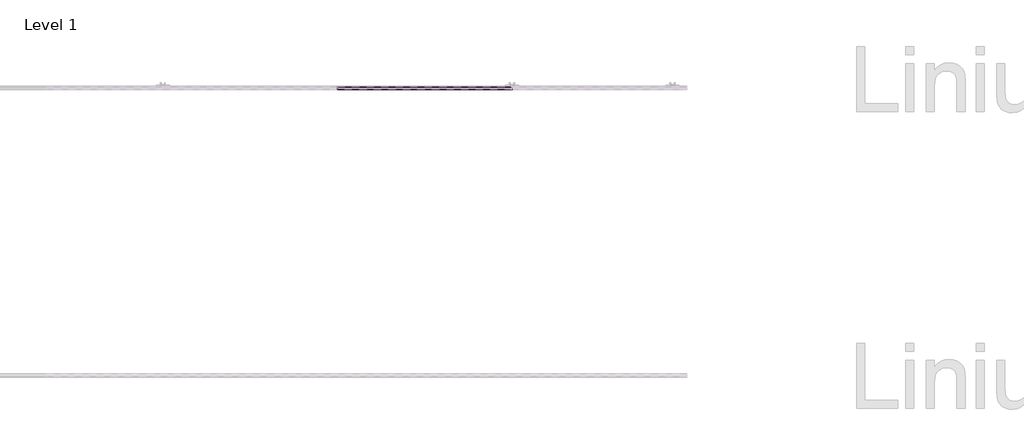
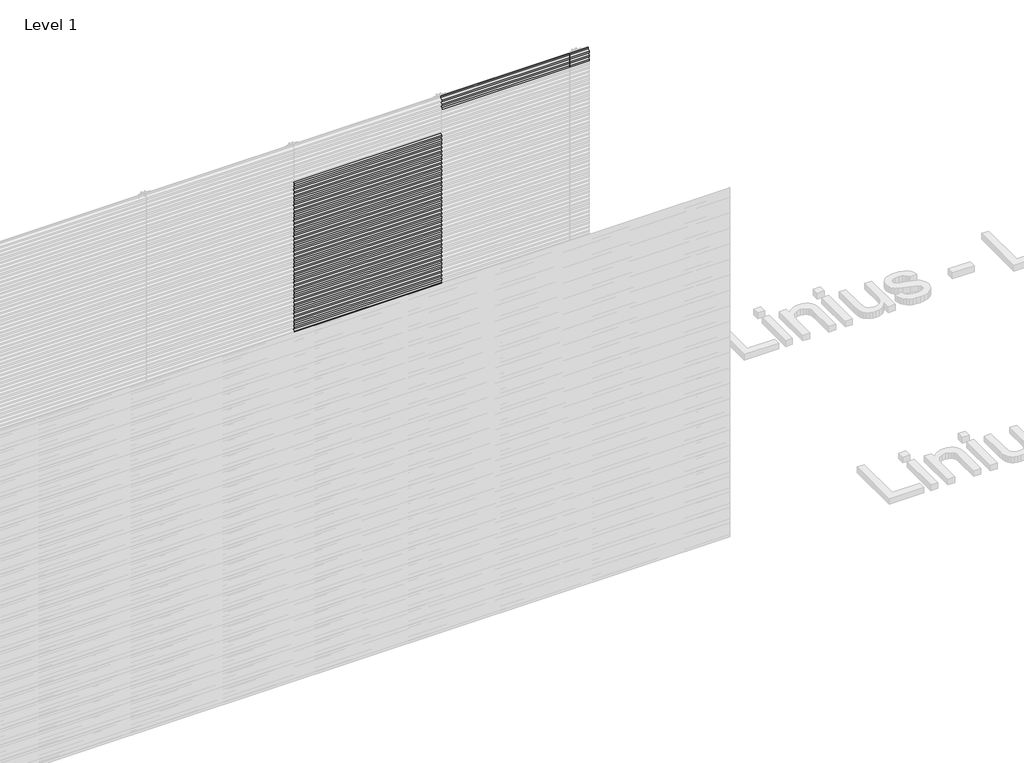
# One storey, part 21 of 507: 84 proxies.
"""IFC4 building model written with IfcOpenShell, lengths in millimetres."""

from ifc_helpers import new_model, si_unit, frame, origin, place, context, project, spatial, polyline, outline, extrude, element, save

model = new_model("IFC4")

# Units and contexts
model_context = context("Model", 3, world=origin())
ifc_project = project(units=[si_unit("LENGTHUNIT", "METRE", prefix="MILLI")], contexts=[model_context])

# Site, building, storey
site = spatial("IfcSite", under=ifc_project)
building = spatial("IfcBuilding", under=site)
storey = spatial("IfcBuildingStorey", under=building, Name="Level 1", Elevation=0.0)

# Proxies
placement = place(None, origin())
element("IfcBuildingElementProxy", 1, Name="Wall Sweeps", at=placement, inside=storey, context=model_context, shape_type="SweptSolid", body=[
    extrude(outline(polyline([(6962.6270068, 2673.3), (6981.7770068, 2684.3562577), (6981.7770068, 2697.3), (6983.0270068, 2697.3), (6983.0270068, 2683.6345698), (6963.8770068, 2672.5782281), (6963.8770068, 2660.5216933), (6962.6270068, 2659.8), (6962.6270068, 2673.3)])), frame((48566.6208096, 0.0, 0.0), z_axis=(1.0, 0.0, 0.0), x_axis=(0.0, 1.0, 0.0)), (0.0, 0.0, 1.0), 1199.9999999),
])
element("IfcBuildingElementProxy", 2, Name="Wall Sweeps", at=placement, inside=storey, context=model_context, shape_type="SweptSolid", body=[
    extrude(outline(polyline([(6962.6270068, 2640.0), (6981.7770068, 2651.0562577), (6981.7770068, 2664.0), (6983.0270068, 2664.0), (6983.0270068, 2650.3345698), (6963.8770068, 2639.2782281), (6963.8770068, 2627.2216933), (6962.6270068, 2626.5), (6962.6270068, 2640.0)])), frame((48566.6208096, 0.0, 0.0), z_axis=(1.0, 0.0, 0.0), x_axis=(0.0, 1.0, 0.0)), (0.0, 0.0, 1.0), 1199.9999999),
])
element("IfcBuildingElementProxy", 3, Name="Wall Sweeps", at=placement, inside=storey, context=model_context, shape_type="SweptSolid", body=[
    extrude(outline(polyline([(6962.6270068, 2606.7), (6981.7770068, 2617.7562577), (6981.7770068, 2630.7), (6983.0270068, 2630.7), (6983.0270068, 2617.0345698), (6963.8770068, 2605.9782281), (6963.8770068, 2593.9216933), (6962.6270068, 2593.2), (6962.6270068, 2606.7)])), frame((48566.6208096, 0.0, 0.0), z_axis=(1.0, 0.0, 0.0), x_axis=(0.0, 1.0, 0.0)), (0.0, 0.0, 1.0), 1199.9999999),
])
element("IfcBuildingElementProxy", 4, Name="Wall Sweeps", at=placement, inside=storey, context=model_context, shape_type="SweptSolid", body=[
    extrude(outline(polyline([(6962.6270068, 2573.4), (6981.7770068, 2584.4562577), (6981.7770068, 2597.4), (6983.0270068, 2597.4), (6983.0270068, 2583.7345698), (6963.8770068, 2572.6782281), (6963.8770068, 2560.6216933), (6962.6270068, 2559.9), (6962.6270068, 2573.4)])), frame((48566.6208096, 0.0, 0.0), z_axis=(1.0, 0.0, 0.0), x_axis=(0.0, 1.0, 0.0)), (0.0, 0.0, 1.0), 1199.9999999),
])
element("IfcBuildingElementProxy", 5, Name="Wall Sweeps", at=placement, inside=storey, context=model_context, shape_type="SweptSolid", body=[
    extrude(outline(polyline([(6962.6270068, 2540.1), (6981.7770068, 2551.1562577), (6981.7770068, 2564.1), (6983.0270068, 2564.1), (6983.0270068, 2550.4345698), (6963.8770068, 2539.3782281), (6963.8770068, 2527.3216933), (6962.6270068, 2526.6), (6962.6270068, 2540.1)])), frame((48566.6208096, 0.0, 0.0), z_axis=(1.0, 0.0, 0.0), x_axis=(0.0, 1.0, 0.0)), (0.0, 0.0, 1.0), 1199.9999999),
])
element("IfcBuildingElementProxy", 6, Name="Wall Sweeps", at=placement, inside=storey, context=model_context, shape_type="SweptSolid", body=[
    extrude(outline(polyline([(6962.6270068, 2506.8), (6981.7770068, 2517.8562577), (6981.7770068, 2530.8), (6983.0270068, 2530.8), (6983.0270068, 2517.1345698), (6963.8770068, 2506.0782281), (6963.8770068, 2494.0216933), (6962.6270068, 2493.3), (6962.6270068, 2506.8)])), frame((48566.6208096, 0.0, 0.0), z_axis=(1.0, 0.0, 0.0), x_axis=(0.0, 1.0, 0.0)), (0.0, 0.0, 1.0), 1199.9999999),
])
element("IfcBuildingElementProxy", 7, Name="Wall Sweeps", at=placement, inside=storey, context=model_context, shape_type="SweptSolid", body=[
    extrude(outline(polyline([(6962.6270068, 2473.5), (6981.7770068, 2484.5562577), (6981.7770068, 2497.5), (6983.0270068, 2497.5), (6983.0270068, 2483.8345698), (6963.8770068, 2472.7782281), (6963.8770068, 2460.7216933), (6962.6270068, 2460.0), (6962.6270068, 2473.5)])), frame((48566.6208096, 0.0, 0.0), z_axis=(1.0, 0.0, 0.0), x_axis=(0.0, 1.0, 0.0)), (0.0, 0.0, 1.0), 1199.9999999),
])
element("IfcBuildingElementProxy", 8, Name="Wall Sweeps", at=placement, inside=storey, context=model_context, shape_type="SweptSolid", body=[
    extrude(outline(polyline([(6962.6270068, 2440.2), (6981.7770068, 2451.2562577), (6981.7770068, 2464.2), (6983.0270068, 2464.2), (6983.0270068, 2450.5345698), (6963.8770068, 2439.4782281), (6963.8770068, 2427.4216933), (6962.6270068, 2426.7), (6962.6270068, 2440.2)])), frame((48566.6208096, 0.0, 0.0), z_axis=(1.0, 0.0, 0.0), x_axis=(0.0, 1.0, 0.0)), (0.0, 0.0, 1.0), 1199.9999999),
])
element("IfcBuildingElementProxy", 9, Name="Wall Sweeps", at=placement, inside=storey, context=model_context, shape_type="SweptSolid", body=[
    extrude(outline(polyline([(6962.6270068, 2406.9), (6981.7770068, 2417.9562577), (6981.7770068, 2430.9), (6983.0270068, 2430.9), (6983.0270068, 2417.2345698), (6963.8770068, 2406.1782281), (6963.8770068, 2394.1216933), (6962.6270068, 2393.4), (6962.6270068, 2406.9)])), frame((48566.6208096, 0.0, 0.0), z_axis=(1.0, 0.0, 0.0), x_axis=(0.0, 1.0, 0.0)), (0.0, 0.0, 1.0), 1199.9999999),
])
element("IfcBuildingElementProxy", 10, Name="Wall Sweeps", at=placement, inside=storey, context=model_context, shape_type="SweptSolid", body=[
    extrude(outline(polyline([(6962.6270068, 2373.6), (6981.7770068, 2384.6562577), (6981.7770068, 2397.6), (6983.0270068, 2397.6), (6983.0270068, 2383.9345698), (6963.8770068, 2372.8782281), (6963.8770068, 2360.8216933), (6962.6270068, 2360.1), (6962.6270068, 2373.6)])), frame((48566.6208096, 0.0, 0.0), z_axis=(1.0, 0.0, 0.0), x_axis=(0.0, 1.0, 0.0)), (0.0, 0.0, 1.0), 1199.9999999),
])
element("IfcBuildingElementProxy", 11, Name="Wall Sweeps", at=placement, inside=storey, context=model_context, shape_type="SweptSolid", body=[
    extrude(outline(polyline([(6962.6270068, 2340.3), (6981.7770068, 2351.3562577), (6981.7770068, 2364.3), (6983.0270068, 2364.3), (6983.0270068, 2350.6345698), (6963.8770068, 2339.5782281), (6963.8770068, 2327.5216933), (6962.6270068, 2326.8), (6962.6270068, 2340.3)])), frame((48566.6208096, 0.0, 0.0), z_axis=(1.0, 0.0, 0.0), x_axis=(0.0, 1.0, 0.0)), (0.0, 0.0, 1.0), 1199.9999999),
])
element("IfcBuildingElementProxy", 12, Name="Wall Sweeps", at=placement, inside=storey, context=model_context, shape_type="SweptSolid", body=[
    extrude(outline(polyline([(6962.6270068, 2307.0), (6981.7770068, 2318.0562577), (6981.7770068, 2331.0), (6983.0270068, 2331.0), (6983.0270068, 2317.3345698), (6963.8770068, 2306.2782281), (6963.8770068, 2294.2216933), (6962.6270068, 2293.5), (6962.6270068, 2307.0)])), frame((48566.6208096, 0.0, 0.0), z_axis=(1.0, 0.0, 0.0), x_axis=(0.0, 1.0, 0.0)), (0.0, 0.0, 1.0), 1199.9999999),
])
element("IfcBuildingElementProxy", 13, Name="Wall Sweeps", at=placement, inside=storey, context=model_context, shape_type="SweptSolid", body=[
    extrude(outline(polyline([(6962.6270068, 2273.7), (6981.7770068, 2284.7562577), (6981.7770068, 2297.7), (6983.0270068, 2297.7), (6983.0270068, 2284.0345698), (6963.8770068, 2272.9782281), (6963.8770068, 2260.9216933), (6962.6270068, 2260.2), (6962.6270068, 2273.7)])), frame((48566.6208096, 0.0, 0.0), z_axis=(1.0, 0.0, 0.0), x_axis=(0.0, 1.0, 0.0)), (0.0, 0.0, 1.0), 1199.9999999),
])
element("IfcBuildingElementProxy", 14, Name="Wall Sweeps", at=placement, inside=storey, context=model_context, shape_type="SweptSolid", body=[
    extrude(outline(polyline([(6962.6270068, 2240.4), (6981.7770068, 2251.4562577), (6981.7770068, 2264.4), (6983.0270068, 2264.4), (6983.0270068, 2250.7345698), (6963.8770068, 2239.6782281), (6963.8770068, 2227.6216933), (6962.6270068, 2226.9), (6962.6270068, 2240.4)])), frame((48566.6208096, 0.0, 0.0), z_axis=(1.0, 0.0, 0.0), x_axis=(0.0, 1.0, 0.0)), (0.0, 0.0, 1.0), 1199.9999999),
])
element("IfcBuildingElementProxy", 15, Name="Wall Sweeps", at=placement, inside=storey, context=model_context, shape_type="SweptSolid", body=[
    extrude(outline(polyline([(6962.6270068, 2207.1), (6981.7770068, 2218.1562577), (6981.7770068, 2231.1), (6983.0270068, 2231.1), (6983.0270068, 2217.4345698), (6963.8770068, 2206.3782281), (6963.8770068, 2194.3216933), (6962.6270068, 2193.6), (6962.6270068, 2207.1)])), frame((48566.6208096, 0.0, 0.0), z_axis=(1.0, 0.0, 0.0), x_axis=(0.0, 1.0, 0.0)), (0.0, 0.0, 1.0), 1199.9999999),
])
element("IfcBuildingElementProxy", 16, Name="Wall Sweeps", at=placement, inside=storey, context=model_context, shape_type="SweptSolid", body=[
    extrude(outline(polyline([(6962.6270068, 2173.8), (6981.7770068, 2184.8562577), (6981.7770068, 2197.8), (6983.0270068, 2197.8), (6983.0270068, 2184.1345698), (6963.8770068, 2173.0782281), (6963.8770068, 2161.0216933), (6962.6270068, 2160.3), (6962.6270068, 2173.8)])), frame((48566.6208096, 0.0, 0.0), z_axis=(1.0, 0.0, 0.0), x_axis=(0.0, 1.0, 0.0)), (0.0, 0.0, 1.0), 1199.9999999),
])
element("IfcBuildingElementProxy", 17, Name="Wall Sweeps", at=placement, inside=storey, context=model_context, shape_type="SweptSolid", body=[
    extrude(outline(polyline([(6962.6270068, 2140.5), (6981.7770068, 2151.5562577), (6981.7770068, 2164.5), (6983.0270068, 2164.5), (6983.0270068, 2150.8345698), (6963.8770068, 2139.7782281), (6963.8770068, 2127.7216933), (6962.6270068, 2127.0), (6962.6270068, 2140.5)])), frame((48566.6208096, 0.0, 0.0), z_axis=(1.0, 0.0, 0.0), x_axis=(0.0, 1.0, 0.0)), (0.0, 0.0, 1.0), 1199.9999999),
])
element("IfcBuildingElementProxy", 18, Name="Wall Sweeps", at=placement, inside=storey, context=model_context, shape_type="SweptSolid", body=[
    extrude(outline(polyline([(6962.6270068, 2107.2), (6981.7770068, 2118.2562577), (6981.7770068, 2131.2), (6983.0270068, 2131.2), (6983.0270068, 2117.5345698), (6963.8770068, 2106.4782281), (6963.8770068, 2094.4216933), (6962.6270068, 2093.7), (6962.6270068, 2107.2)])), frame((48566.6208096, 0.0, 0.0), z_axis=(1.0, 0.0, 0.0), x_axis=(0.0, 1.0, 0.0)), (0.0, 0.0, 1.0), 1199.9999999),
])
element("IfcBuildingElementProxy", 19, Name="Wall Sweeps", at=placement, inside=storey, context=model_context, shape_type="SweptSolid", body=[
    extrude(outline(polyline([(6962.6270068, 2073.9), (6981.7770068, 2084.9562577), (6981.7770068, 2097.9), (6983.0270068, 2097.9), (6983.0270068, 2084.2345698), (6963.8770068, 2073.1782281), (6963.8770068, 2061.1216933), (6962.6270068, 2060.4), (6962.6270068, 2073.9)])), frame((48566.6208096, 0.0, 0.0), z_axis=(1.0, 0.0, 0.0), x_axis=(0.0, 1.0, 0.0)), (0.0, 0.0, 1.0), 1199.9999999),
])
element("IfcBuildingElementProxy", 20, Name="Wall Sweeps", at=placement, inside=storey, context=model_context, shape_type="SweptSolid", body=[
    extrude(outline(polyline([(6962.6270068, 2040.6), (6981.7770068, 2051.6562577), (6981.7770068, 2064.6), (6983.0270068, 2064.6), (6983.0270068, 2050.9345698), (6963.8770068, 2039.8782281), (6963.8770068, 2027.8216933), (6962.6270068, 2027.1), (6962.6270068, 2040.6)])), frame((48566.6208096, 0.0, 0.0), z_axis=(1.0, 0.0, 0.0), x_axis=(0.0, 1.0, 0.0)), (0.0, 0.0, 1.0), 1199.9999999),
])
element("IfcBuildingElementProxy", 21, Name="Wall Sweeps", at=placement, inside=storey, context=model_context, shape_type="SweptSolid", body=[
    extrude(outline(polyline([(6962.6270068, 2007.3), (6981.7770068, 2018.3562577), (6981.7770068, 2031.3), (6983.0270068, 2031.3), (6983.0270068, 2017.6345698), (6963.8770068, 2006.5782281), (6963.8770068, 1994.5216933), (6962.6270068, 1993.8), (6962.6270068, 2007.3)])), frame((48566.6208096, 0.0, 0.0), z_axis=(1.0, 0.0, 0.0), x_axis=(0.0, 1.0, 0.0)), (0.0, 0.0, 1.0), 1199.9999999),
])
element("IfcBuildingElementProxy", 22, Name="Wall Sweeps", at=placement, inside=storey, context=model_context, shape_type="SweptSolid", body=[
    extrude(outline(polyline([(6962.6270068, 1974.0), (6981.7770068, 1985.0562577), (6981.7770068, 1998.0), (6983.0270068, 1998.0), (6983.0270068, 1984.3345698), (6963.8770068, 1973.2782281), (6963.8770068, 1961.2216933), (6962.6270068, 1960.5), (6962.6270068, 1974.0)])), frame((48566.6208096, 0.0, 0.0), z_axis=(1.0, 0.0, 0.0), x_axis=(0.0, 1.0, 0.0)), (0.0, 0.0, 1.0), 1199.9999999),
])
element("IfcBuildingElementProxy", 23, Name="Wall Sweeps", at=placement, inside=storey, context=model_context, shape_type="SweptSolid", body=[
    extrude(outline(polyline([(6962.6270068, 1940.7), (6981.7770068, 1951.7562577), (6981.7770068, 1964.7), (6983.0270068, 1964.7), (6983.0270068, 1951.0345698), (6963.8770068, 1939.9782281), (6963.8770068, 1927.9216933), (6962.6270068, 1927.2), (6962.6270068, 1940.7)])), frame((48566.6208096, 0.0, 0.0), z_axis=(1.0, 0.0, 0.0), x_axis=(0.0, 1.0, 0.0)), (0.0, 0.0, 1.0), 1199.9999999),
])
element("IfcBuildingElementProxy", 24, Name="Wall Sweeps", at=placement, inside=storey, context=model_context, shape_type="SweptSolid", body=[
    extrude(outline(polyline([(6962.6270068, 1907.4), (6981.7770068, 1918.4562577), (6981.7770068, 1931.4), (6983.0270068, 1931.4), (6983.0270068, 1917.7345698), (6963.8770068, 1906.6782281), (6963.8770068, 1894.6216933), (6962.6270068, 1893.9), (6962.6270068, 1907.4)])), frame((48566.6208096, 0.0, 0.0), z_axis=(1.0, 0.0, 0.0), x_axis=(0.0, 1.0, 0.0)), (0.0, 0.0, 1.0), 1199.9999999),
])
element("IfcBuildingElementProxy", 25, Name="Wall Sweeps", at=placement, inside=storey, context=model_context, shape_type="SweptSolid", body=[
    extrude(outline(polyline([(6962.6270068, 1874.1), (6981.7770068, 1885.1562577), (6981.7770068, 1898.1), (6983.0270068, 1898.1), (6983.0270068, 1884.4345698), (6963.8770068, 1873.3782281), (6963.8770068, 1861.3216933), (6962.6270068, 1860.6), (6962.6270068, 1874.1)])), frame((48566.6208096, 0.0, 0.0), z_axis=(1.0, 0.0, 0.0), x_axis=(0.0, 1.0, 0.0)), (0.0, 0.0, 1.0), 1199.9999999),
])
element("IfcBuildingElementProxy", 26, Name="Wall Sweeps", at=placement, inside=storey, context=model_context, shape_type="SweptSolid", body=[
    extrude(outline(polyline([(6962.6270068, 1840.8), (6981.7770068, 1851.8562577), (6981.7770068, 1864.8), (6983.0270068, 1864.8), (6983.0270068, 1851.1345698), (6963.8770068, 1840.0782281), (6963.8770068, 1828.0216933), (6962.6270068, 1827.3), (6962.6270068, 1840.8)])), frame((48566.6208096, 0.0, 0.0), z_axis=(1.0, 0.0, 0.0), x_axis=(0.0, 1.0, 0.0)), (0.0, 0.0, 1.0), 1199.9999999),
])
element("IfcBuildingElementProxy", 27, Name="Wall Sweeps", at=placement, inside=storey, context=model_context, shape_type="SweptSolid", body=[
    extrude(outline(polyline([(6962.6270068, 1807.5), (6981.7770068, 1818.5562577), (6981.7770068, 1831.5), (6983.0270068, 1831.5), (6983.0270068, 1817.8345698), (6963.8770068, 1806.7782281), (6963.8770068, 1794.7216933), (6962.6270068, 1794.0), (6962.6270068, 1807.5)])), frame((48566.6208096, 0.0, 0.0), z_axis=(1.0, 0.0, 0.0), x_axis=(0.0, 1.0, 0.0)), (0.0, 0.0, 1.0), 1199.9999999),
])
element("IfcBuildingElementProxy", 28, Name="Wall Sweeps", at=placement, inside=storey, context=model_context, shape_type="SweptSolid", body=[
    extrude(outline(polyline([(6962.6270068, 1774.2), (6981.7770068, 1785.2562577), (6981.7770068, 1798.2), (6983.0270068, 1798.2), (6983.0270068, 1784.5345698), (6963.8770068, 1773.4782281), (6963.8770068, 1761.4216933), (6962.6270068, 1760.7), (6962.6270068, 1774.2)])), frame((48566.6208096, 0.0, 0.0), z_axis=(1.0, 0.0, 0.0), x_axis=(0.0, 1.0, 0.0)), (0.0, 0.0, 1.0), 1199.9999999),
])
element("IfcBuildingElementProxy", 29, Name="Wall Sweeps", at=placement, inside=storey, context=model_context, shape_type="SweptSolid", body=[
    extrude(outline(polyline([(6962.6270068, 1740.9), (6981.7770068, 1751.9562577), (6981.7770068, 1764.9), (6983.0270068, 1764.9), (6983.0270068, 1751.2345698), (6963.8770068, 1740.1782281), (6963.8770068, 1728.1216933), (6962.6270068, 1727.4), (6962.6270068, 1740.9)])), frame((48566.6208096, 0.0, 0.0), z_axis=(1.0, 0.0, 0.0), x_axis=(0.0, 1.0, 0.0)), (0.0, 0.0, 1.0), 1199.9999999),
])
element("IfcBuildingElementProxy", 30, Name="Wall Sweeps", at=placement, inside=storey, context=model_context, shape_type="SweptSolid", body=[
    extrude(outline(polyline([(6962.6270068, 1707.6), (6981.7770068, 1718.6562577), (6981.7770068, 1731.6), (6983.0270068, 1731.6), (6983.0270068, 1717.9345698), (6963.8770068, 1706.8782281), (6963.8770068, 1694.8216933), (6962.6270068, 1694.1), (6962.6270068, 1707.6)])), frame((48566.6208096, 0.0, 0.0), z_axis=(1.0, 0.0, 0.0), x_axis=(0.0, 1.0, 0.0)), (0.0, 0.0, 1.0), 1199.9999999),
])
element("IfcBuildingElementProxy", 31, Name="Wall Sweeps", at=placement, inside=storey, context=model_context, shape_type="SweptSolid", body=[
    extrude(outline(polyline([(6962.6270068, 1674.3), (6981.7770068, 1685.3562577), (6981.7770068, 1698.3), (6983.0270068, 1698.3), (6983.0270068, 1684.6345698), (6963.8770068, 1673.5782281), (6963.8770068, 1661.5216933), (6962.6270068, 1660.8), (6962.6270068, 1674.3)])), frame((48566.6208096, 0.0, 0.0), z_axis=(1.0, 0.0, 0.0), x_axis=(0.0, 1.0, 0.0)), (0.0, 0.0, 1.0), 1199.9999999),
])
element("IfcBuildingElementProxy", 32, Name="Wall Sweeps", at=placement, inside=storey, context=model_context, shape_type="SweptSolid", body=[
    extrude(outline(polyline([(6962.6270068, 1641.0), (6981.7770068, 1652.0562577), (6981.7770068, 1665.0), (6983.0270068, 1665.0), (6983.0270068, 1651.3345698), (6963.8770068, 1640.2782281), (6963.8770068, 1628.2216933), (6962.6270068, 1627.5), (6962.6270068, 1641.0)])), frame((48566.6208096, 0.0, 0.0), z_axis=(1.0, 0.0, 0.0), x_axis=(0.0, 1.0, 0.0)), (0.0, 0.0, 1.0), 1199.9999999),
])
element("IfcBuildingElementProxy", 33, Name="Wall Sweeps", at=placement, inside=storey, context=model_context, shape_type="SweptSolid", body=[
    extrude(outline(polyline([(6962.6270068, 1607.7), (6981.7770068, 1618.7562577), (6981.7770068, 1631.7), (6983.0270068, 1631.7), (6983.0270068, 1618.0345698), (6963.8770068, 1606.9782281), (6963.8770068, 1594.9216933), (6962.6270068, 1594.2), (6962.6270068, 1607.7)])), frame((48566.6208096, 0.0, 0.0), z_axis=(1.0, 0.0, 0.0), x_axis=(0.0, 1.0, 0.0)), (0.0, 0.0, 1.0), 1199.9999999),
])
element("IfcBuildingElementProxy", 34, Name="Wall Sweeps", at=placement, inside=storey, context=model_context, shape_type="SweptSolid", body=[
    extrude(outline(polyline([(6962.6270068, 1574.4), (6981.7770068, 1585.4562577), (6981.7770068, 1598.4), (6983.0270068, 1598.4), (6983.0270068, 1584.7345698), (6963.8770068, 1573.6782281), (6963.8770068, 1561.6216933), (6962.6270068, 1560.9), (6962.6270068, 1574.4)])), frame((48566.6208096, 0.0, 0.0), z_axis=(1.0, 0.0, 0.0), x_axis=(0.0, 1.0, 0.0)), (0.0, 0.0, 1.0), 1199.9999999),
])
element("IfcBuildingElementProxy", 35, Name="Wall Sweeps", at=placement, inside=storey, context=model_context, shape_type="SweptSolid", body=[
    extrude(outline(polyline([(6962.6270068, 1541.1), (6981.7770068, 1552.1562577), (6981.7770068, 1565.1), (6983.0270068, 1565.1), (6983.0270068, 1551.4345698), (6963.8770068, 1540.3782281), (6963.8770068, 1528.3216933), (6962.6270068, 1527.6), (6962.6270068, 1541.1)])), frame((48566.6208096, 0.0, 0.0), z_axis=(1.0, 0.0, 0.0), x_axis=(0.0, 1.0, 0.0)), (0.0, 0.0, 1.0), 1199.9999999),
])
element("IfcBuildingElementProxy", 36, Name="Wall Sweeps", at=placement, inside=storey, context=model_context, shape_type="SweptSolid", body=[
    extrude(outline(polyline([(6962.6270068, 1507.8), (6981.7770068, 1518.8562577), (6981.7770068, 1531.8), (6983.0270068, 1531.8), (6983.0270068, 1518.1345698), (6963.8770068, 1507.0782281), (6963.8770068, 1495.0216933), (6962.6270068, 1494.3), (6962.6270068, 1507.8)])), frame((48566.6208096, 0.0, 0.0), z_axis=(1.0, 0.0, 0.0), x_axis=(0.0, 1.0, 0.0)), (0.0, 0.0, 1.0), 1199.9999999),
])
element("IfcBuildingElementProxy", 37, Name="Wall Sweeps", at=placement, inside=storey, context=model_context, shape_type="SweptSolid", body=[
    extrude(outline(polyline([(6962.6270068, 1474.5), (6981.7770068, 1485.5562577), (6981.7770068, 1498.5), (6983.0270068, 1498.5), (6983.0270068, 1484.8345698), (6963.8770068, 1473.7782281), (6963.8770068, 1461.7216933), (6962.6270068, 1461.0), (6962.6270068, 1474.5)])), frame((48566.6208096, 0.0, 0.0), z_axis=(1.0, 0.0, 0.0), x_axis=(0.0, 1.0, 0.0)), (0.0, 0.0, 1.0), 1199.9999999),
])
element("IfcBuildingElementProxy", 38, Name="Wall Sweeps", at=placement, inside=storey, context=model_context, shape_type="SweptSolid", body=[
    extrude(outline(polyline([(6962.6270068, 1441.2), (6981.7770068, 1452.2562577), (6981.7770068, 1465.2), (6983.0270068, 1465.2), (6983.0270068, 1451.5345698), (6963.8770068, 1440.4782281), (6963.8770068, 1428.4216933), (6962.6270068, 1427.7), (6962.6270068, 1441.2)])), frame((48566.6208096, 0.0, 0.0), z_axis=(1.0, 0.0, 0.0), x_axis=(0.0, 1.0, 0.0)), (0.0, 0.0, 1.0), 1199.9999999),
])
element("IfcBuildingElementProxy", 39, Name="Wall Sweeps", at=placement, inside=storey, context=model_context, shape_type="SweptSolid", body=[
    extrude(outline(polyline([(6962.6270068, 1407.9), (6981.7770068, 1418.9562577), (6981.7770068, 1431.9), (6983.0270068, 1431.9), (6983.0270068, 1418.2345698), (6963.8770068, 1407.1782281), (6963.8770068, 1395.1216933), (6962.6270068, 1394.4), (6962.6270068, 1407.9)])), frame((48566.6208096, 0.0, 0.0), z_axis=(1.0, 0.0, 0.0), x_axis=(0.0, 1.0, 0.0)), (0.0, 0.0, 1.0), 1199.9999999),
])
element("IfcBuildingElementProxy", 40, Name="Wall Sweeps", at=placement, inside=storey, context=model_context, shape_type="SweptSolid", body=[
    extrude(outline(polyline([(6962.6270068, 1374.6), (6981.7770068, 1385.6562577), (6981.7770068, 1398.6), (6983.0270068, 1398.6), (6983.0270068, 1384.9345698), (6963.8770068, 1373.8782281), (6963.8770068, 1361.8216933), (6962.6270068, 1361.1), (6962.6270068, 1374.6)])), frame((48566.6208096, 0.0, 0.0), z_axis=(1.0, 0.0, 0.0), x_axis=(0.0, 1.0, 0.0)), (0.0, 0.0, 1.0), 1199.9999999),
])
element("IfcBuildingElementProxy", 41, Name="Wall Sweeps", at=placement, inside=storey, context=model_context, shape_type="SweptSolid", body=[
    extrude(outline(polyline([(6962.6270068, 1341.3), (6981.7770068, 1352.3562577), (6981.7770068, 1365.3), (6983.0270068, 1365.3), (6983.0270068, 1351.6345698), (6963.8770068, 1340.5782281), (6963.8770068, 1328.5216933), (6962.6270068, 1327.8), (6962.6270068, 1341.3)])), frame((48566.6208096, 0.0, 0.0), z_axis=(1.0, 0.0, 0.0), x_axis=(0.0, 1.0, 0.0)), (0.0, 0.0, 1.0), 1199.9999999),
])
element("IfcBuildingElementProxy", 42, Name="Wall Sweeps", at=placement, inside=storey, context=model_context, shape_type="SweptSolid", body=[
    extrude(outline(polyline([(6962.6270068, 1308.0), (6981.7770068, 1319.0562577), (6981.7770068, 1332.0), (6983.0270068, 1332.0), (6983.0270068, 1318.3345698), (6963.8770068, 1307.2782281), (6963.8770068, 1295.2216933), (6962.6270068, 1294.5), (6962.6270068, 1308.0)])), frame((48566.6208096, 0.0, 0.0), z_axis=(1.0, 0.0, 0.0), x_axis=(0.0, 1.0, 0.0)), (0.0, 0.0, 1.0), 1199.9999999),
])
element("IfcBuildingElementProxy", 43, Name="Wall Sweeps", at=placement, inside=storey, context=model_context, shape_type="SweptSolid", body=[
    extrude(outline(polyline([(6962.6270068, 1274.7), (6981.7770068, 1285.7562577), (6981.7770068, 1298.7), (6983.0270068, 1298.7), (6983.0270068, 1285.0345698), (6963.8770068, 1273.9782281), (6963.8770068, 1261.9216933), (6962.6270068, 1261.2), (6962.6270068, 1274.7)])), frame((48566.6208096, 0.0, 0.0), z_axis=(1.0, 0.0, 0.0), x_axis=(0.0, 1.0, 0.0)), (0.0, 0.0, 1.0), 1199.9999999),
])
element("IfcBuildingElementProxy", 44, Name="Wall Sweeps", at=placement, inside=storey, context=model_context, shape_type="SweptSolid", body=[
    extrude(outline(polyline([(6962.6270068, 1241.4), (6981.7770068, 1252.4562577), (6981.7770068, 1265.4), (6983.0270068, 1265.4), (6983.0270068, 1251.7345698), (6963.8770068, 1240.6782281), (6963.8770068, 1228.6216933), (6962.6270068, 1227.9), (6962.6270068, 1241.4)])), frame((48566.6208096, 0.0, 0.0), z_axis=(1.0, 0.0, 0.0), x_axis=(0.0, 1.0, 0.0)), (0.0, 0.0, 1.0), 1199.9999999),
])
element("IfcBuildingElementProxy", 45, Name="Wall Sweeps", at=placement, inside=storey, context=model_context, shape_type="SweptSolid", body=[
    extrude(outline(polyline([(6962.6270068, 1208.1), (6981.7770068, 1219.1562577), (6981.7770068, 1232.1), (6983.0270068, 1232.1), (6983.0270068, 1218.4345698), (6963.8770068, 1207.3782281), (6963.8770068, 1195.3216933), (6962.6270068, 1194.6), (6962.6270068, 1208.1)])), frame((48566.6208096, 0.0, 0.0), z_axis=(1.0, 0.0, 0.0), x_axis=(0.0, 1.0, 0.0)), (0.0, 0.0, 1.0), 1199.9999999),
])
element("IfcBuildingElementProxy", 46, Name="Wall Sweeps", at=placement, inside=storey, context=model_context, shape_type="SweptSolid", body=[
    extrude(outline(polyline([(6962.6270068, 1174.8), (6981.7770068, 1185.8562577), (6981.7770068, 1198.8), (6983.0270068, 1198.8), (6983.0270068, 1185.1345698), (6963.8770068, 1174.0782281), (6963.8770068, 1162.0216933), (6962.6270068, 1161.3), (6962.6270068, 1174.8)])), frame((48566.6208096, 0.0, 0.0), z_axis=(1.0, 0.0, 0.0), x_axis=(0.0, 1.0, 0.0)), (0.0, 0.0, 1.0), 1199.9999999),
])
element("IfcBuildingElementProxy", 47, Name="Wall Sweeps", at=placement, inside=storey, context=model_context, shape_type="SweptSolid", body=[
    extrude(outline(polyline([(6962.6270068, 1141.5), (6981.7770068, 1152.5562577), (6981.7770068, 1165.5), (6983.0270068, 1165.5), (6983.0270068, 1151.8345698), (6963.8770068, 1140.7782281), (6963.8770068, 1128.7216933), (6962.6270068, 1128.0), (6962.6270068, 1141.5)])), frame((48566.6208096, 0.0, 0.0), z_axis=(1.0, 0.0, 0.0), x_axis=(0.0, 1.0, 0.0)), (0.0, 0.0, 1.0), 1199.9999999),
])
element("IfcBuildingElementProxy", 48, Name="Wall Sweeps", at=placement, inside=storey, context=model_context, shape_type="SweptSolid", body=[
    extrude(outline(polyline([(6962.6270068, 1108.2), (6981.7770068, 1119.2562577), (6981.7770068, 1132.2), (6983.0270068, 1132.2), (6983.0270068, 1118.5345698), (6963.8770068, 1107.4782281), (6963.8770068, 1095.4216933), (6962.6270068, 1094.7), (6962.6270068, 1108.2)])), frame((48566.6208096, 0.0, 0.0), z_axis=(1.0, 0.0, 0.0), x_axis=(0.0, 1.0, 0.0)), (0.0, 0.0, 1.0), 1199.9999999),
])
element("IfcBuildingElementProxy", 49, Name="Wall Sweeps", at=placement, inside=storey, context=model_context, shape_type="SweptSolid", body=[
    extrude(outline(polyline([(6962.6270068, 1074.9), (6981.7770068, 1085.9562577), (6981.7770068, 1098.9), (6983.0270068, 1098.9), (6983.0270068, 1085.2345698), (6963.8770068, 1074.1782281), (6963.8770068, 1062.1216933), (6962.6270068, 1061.4), (6962.6270068, 1074.9)])), frame((48566.6208096, 0.0, 0.0), z_axis=(1.0, 0.0, 0.0), x_axis=(0.0, 1.0, 0.0)), (0.0, 0.0, 1.0), 1199.9999999),
])
element("IfcBuildingElementProxy", 50, Name="Wall Sweeps", at=placement, inside=storey, context=model_context, shape_type="SweptSolid", body=[
    extrude(outline(polyline([(6962.6270068, 1041.6), (6981.7770068, 1052.6562577), (6981.7770068, 1065.6), (6983.0270068, 1065.6), (6983.0270068, 1051.9345698), (6963.8770068, 1040.8782281), (6963.8770068, 1028.8216933), (6962.6270068, 1028.1), (6962.6270068, 1041.6)])), frame((48566.6208096, 0.0, 0.0), z_axis=(1.0, 0.0, 0.0), x_axis=(0.0, 1.0, 0.0)), (0.0, 0.0, 1.0), 1199.9999999),
])
element("IfcBuildingElementProxy", 51, Name="Wall Sweeps", at=placement, inside=storey, context=model_context, shape_type="SweptSolid", body=[
    extrude(outline(polyline([(6962.6270068, 1008.3), (6981.7770068, 1019.3562577), (6981.7770068, 1032.3), (6983.0270068, 1032.3), (6983.0270068, 1018.6345698), (6963.8770068, 1007.5782281), (6963.8770068, 995.5216933), (6962.6270068, 994.8), (6962.6270068, 1008.3)])), frame((48566.6208096, 0.0, 0.0), z_axis=(1.0, 0.0, 0.0), x_axis=(0.0, 1.0, 0.0)), (0.0, 0.0, 1.0), 1199.9999999),
])
element("IfcBuildingElementProxy", 52, Name="Wall Sweeps", at=placement, inside=storey, context=model_context, shape_type="SweptSolid", body=[
    extrude(outline(polyline([(6962.6270068, 975.0), (6981.7770068, 986.0562577), (6981.7770068, 999.0), (6983.0270068, 999.0), (6983.0270068, 985.3345698), (6963.8770068, 974.2782281), (6963.8770068, 962.2216933), (6962.6270068, 961.5), (6962.6270068, 975.0)])), frame((48566.6208096, 0.0, 0.0), z_axis=(1.0, 0.0, 0.0), x_axis=(0.0, 1.0, 0.0)), (0.0, 0.0, 1.0), 1199.9999999),
])
element("IfcBuildingElementProxy", 53, Name="Wall Sweeps", at=placement, inside=storey, context=model_context, shape_type="SweptSolid", body=[
    extrude(outline(polyline([(6962.6270068, 941.7), (6981.7770068, 952.7562577), (6981.7770068, 965.7), (6983.0270068, 965.7), (6983.0270068, 952.0345698), (6963.8770068, 940.9782281), (6963.8770068, 928.9216933), (6962.6270068, 928.2), (6962.6270068, 941.7)])), frame((48566.6208096, 0.0, 0.0), z_axis=(1.0, 0.0, 0.0), x_axis=(0.0, 1.0, 0.0)), (0.0, 0.0, 1.0), 1199.9999999),
])
element("IfcBuildingElementProxy", 54, Name="Wall Sweeps", at=placement, inside=storey, context=model_context, shape_type="SweptSolid", body=[
    extrude(outline(polyline([(6962.6270068, 908.4), (6981.7770068, 919.4562577), (6981.7770068, 932.4), (6983.0270068, 932.4), (6983.0270068, 918.7345698), (6963.8770068, 907.6782281), (6963.8770068, 895.6216933), (6962.6270068, 894.9), (6962.6270068, 908.4)])), frame((48566.6208096, 0.0, 0.0), z_axis=(1.0, 0.0, 0.0), x_axis=(0.0, 1.0, 0.0)), (0.0, 0.0, 1.0), 1199.9999999),
])
element("IfcBuildingElementProxy", 55, Name="Wall Sweeps", at=placement, inside=storey, context=model_context, shape_type="SweptSolid", body=[
    extrude(outline(polyline([(6962.6270068, 875.1), (6981.7770068, 886.1562577), (6981.7770068, 899.1), (6983.0270068, 899.1), (6983.0270068, 885.4345698), (6963.8770068, 874.3782281), (6963.8770068, 862.3216933), (6962.6270068, 861.6), (6962.6270068, 875.1)])), frame((48566.6208096, 0.0, 0.0), z_axis=(1.0, 0.0, 0.0), x_axis=(0.0, 1.0, 0.0)), (0.0, 0.0, 1.0), 1199.9999999),
])
element("IfcBuildingElementProxy", 56, Name="Wall Sweeps", at=placement, inside=storey, context=model_context, shape_type="SweptSolid", body=[
    extrude(outline(polyline([(6962.6270068, 841.8), (6981.7770068, 852.8562577), (6981.7770068, 865.8), (6983.0270068, 865.8), (6983.0270068, 852.1345698), (6963.8770068, 841.0782281), (6963.8770068, 829.0216933), (6962.6270068, 828.3), (6962.6270068, 841.8)])), frame((48566.6208096, 0.0, 0.0), z_axis=(1.0, 0.0, 0.0), x_axis=(0.0, 1.0, 0.0)), (0.0, 0.0, 1.0), 1199.9999999),
])
element("IfcBuildingElementProxy", 57, Name="Wall Sweeps", at=placement, inside=storey, context=model_context, shape_type="SweptSolid", body=[
    extrude(outline(polyline([(6962.6270068, 808.5), (6981.7770068, 819.5562577), (6981.7770068, 832.5), (6983.0270068, 832.5), (6983.0270068, 818.8345698), (6963.8770068, 807.7782281), (6963.8770068, 795.7216933), (6962.6270068, 795.0), (6962.6270068, 808.5)])), frame((48566.6208096, 0.0, 0.0), z_axis=(1.0, 0.0, 0.0), x_axis=(0.0, 1.0, 0.0)), (0.0, 0.0, 1.0), 1199.9999999),
])
element("IfcBuildingElementProxy", 58, Name="Wall Sweeps", at=placement, inside=storey, context=model_context, shape_type="SweptSolid", body=[
    extrude(outline(polyline([(6962.6270068, 775.2), (6981.7770068, 786.2562577), (6981.7770068, 799.2), (6983.0270068, 799.2), (6983.0270068, 785.5345698), (6963.8770068, 774.4782281), (6963.8770068, 762.4216933), (6962.6270068, 761.7), (6962.6270068, 775.2)])), frame((48566.6208096, 0.0, 0.0), z_axis=(1.0, 0.0, 0.0), x_axis=(0.0, 1.0, 0.0)), (0.0, 0.0, 1.0), 1199.9999999),
])
element("IfcBuildingElementProxy", 59, Name="Wall Sweeps", at=placement, inside=storey, context=model_context, shape_type="SweptSolid", body=[
    extrude(outline(polyline([(6962.6270068, 741.9), (6981.7770068, 752.9562577), (6981.7770068, 765.9), (6983.0270068, 765.9), (6983.0270068, 752.2345698), (6963.8770068, 741.1782281), (6963.8770068, 729.1216933), (6962.6270068, 728.4), (6962.6270068, 741.9)])), frame((48566.6208096, 0.0, 0.0), z_axis=(1.0, 0.0, 0.0), x_axis=(0.0, 1.0, 0.0)), (0.0, 0.0, 1.0), 1199.9999999),
])
element("IfcBuildingElementProxy", 60, Name="Wall Sweeps", at=placement, inside=storey, context=model_context, shape_type="SweptSolid", body=[
    extrude(outline(polyline([(6962.6270068, 708.6), (6981.7770068, 719.6562577), (6981.7770068, 732.6), (6983.0270068, 732.6), (6983.0270068, 718.9345698), (6963.8770068, 707.8782281), (6963.8770068, 695.8216933), (6962.6270068, 695.1), (6962.6270068, 708.6)])), frame((48566.6208096, 0.0, 0.0), z_axis=(1.0, 0.0, 0.0), x_axis=(0.0, 1.0, 0.0)), (0.0, 0.0, 1.0), 1199.9999999),
])
element("IfcBuildingElementProxy", 61, Name="Wall Sweeps", at=placement, inside=storey, context=model_context, shape_type="SweptSolid", body=[
    extrude(outline(polyline([(6962.6270068, 675.3), (6981.7770068, 686.3562577), (6981.7770068, 699.3), (6983.0270068, 699.3), (6983.0270068, 685.6345698), (6963.8770068, 674.5782281), (6963.8770068, 662.5216933), (6962.6270068, 661.8), (6962.6270068, 675.3)])), frame((48566.6208096, 0.0, 0.0), z_axis=(1.0, 0.0, 0.0), x_axis=(0.0, 1.0, 0.0)), (0.0, 0.0, 1.0), 1199.9999999),
])
element("IfcBuildingElementProxy", 62, Name="Wall Sweeps", at=placement, inside=storey, context=model_context, shape_type="SweptSolid", body=[
    extrude(outline(polyline([(6962.6270068, 642.0), (6981.7770068, 653.0562577), (6981.7770068, 666.0), (6983.0270068, 666.0), (6983.0270068, 652.3345698), (6963.8770068, 641.2782281), (6963.8770068, 629.2216933), (6962.6270068, 628.5), (6962.6270068, 642.0)])), frame((48566.6208096, 0.0, 0.0), z_axis=(1.0, 0.0, 0.0), x_axis=(0.0, 1.0, 0.0)), (0.0, 0.0, 1.0), 1199.9999999),
])
element("IfcBuildingElementProxy", 63, Name="Wall Sweeps", at=placement, inside=storey, context=model_context, shape_type="SweptSolid", body=[
    extrude(outline(polyline([(6962.6270068, 608.7), (6981.7770068, 619.7562577), (6981.7770068, 632.7), (6983.0270068, 632.7), (6983.0270068, 619.0345698), (6963.8770068, 607.9782281), (6963.8770068, 595.9216933), (6962.6270068, 595.2), (6962.6270068, 608.7)])), frame((48566.6208096, 0.0, 0.0), z_axis=(1.0, 0.0, 0.0), x_axis=(0.0, 1.0, 0.0)), (0.0, 0.0, 1.0), 1199.9999999),
])
element("IfcBuildingElementProxy", 64, Name="Wall Sweeps", at=placement, inside=storey, context=model_context, shape_type="SweptSolid", body=[
    extrude(outline(polyline([(6962.6270068, 575.4), (6981.7770068, 586.4562577), (6981.7770068, 599.4), (6983.0270068, 599.4), (6983.0270068, 585.7345698), (6963.8770068, 574.6782281), (6963.8770068, 562.6216933), (6962.6270068, 561.9), (6962.6270068, 575.4)])), frame((48566.6208096, 0.0, 0.0), z_axis=(1.0, 0.0, 0.0), x_axis=(0.0, 1.0, 0.0)), (0.0, 0.0, 1.0), 1199.9999999),
])
element("IfcBuildingElementProxy", 65, Name="Wall Sweeps", at=placement, inside=storey, context=model_context, shape_type="SweptSolid", body=[
    extrude(outline(polyline([(6962.6270068, 542.1), (6981.7770068, 553.1562577), (6981.7770068, 566.1), (6983.0270068, 566.1), (6983.0270068, 552.4345698), (6963.8770068, 541.3782281), (6963.8770068, 529.3216933), (6962.6270068, 528.6), (6962.6270068, 542.1)])), frame((48566.6208096, 0.0, 0.0), z_axis=(1.0, 0.0, 0.0), x_axis=(0.0, 1.0, 0.0)), (0.0, 0.0, 1.0), 1199.9999999),
])
element("IfcBuildingElementProxy", 66, Name="Wall Sweeps", at=placement, inside=storey, context=model_context, shape_type="SweptSolid", body=[
    extrude(outline(polyline([(6962.6270068, 508.8), (6981.7770068, 519.8562577), (6981.7770068, 532.8), (6983.0270068, 532.8), (6983.0270068, 519.1345698), (6963.8770068, 508.0782281), (6963.8770068, 496.0216933), (6962.6270068, 495.3), (6962.6270068, 508.8)])), frame((48566.6208096, 0.0, 0.0), z_axis=(1.0, 0.0, 0.0), x_axis=(0.0, 1.0, 0.0)), (0.0, 0.0, 1.0), 1199.9999999),
])
element("IfcBuildingElementProxy", 67, Name="Wall Sweeps", at=placement, inside=storey, context=model_context, shape_type="SweptSolid", body=[
    extrude(outline(polyline([(6962.6270068, 475.5), (6981.7770068, 486.5562577), (6981.7770068, 499.5), (6983.0270068, 499.5), (6983.0270068, 485.8345698), (6963.8770068, 474.7782281), (6963.8770068, 462.7216933), (6962.6270068, 462.0), (6962.6270068, 475.5)])), frame((48566.6208096, 0.0, 0.0), z_axis=(1.0, 0.0, 0.0), x_axis=(0.0, 1.0, 0.0)), (0.0, 0.0, 1.0), 1199.9999999),
])
element("IfcBuildingElementProxy", 68, Name="Wall Sweeps", at=placement, inside=storey, context=model_context, shape_type="SweptSolid", body=[
    extrude(outline(polyline([(6962.6270068, 442.2), (6981.7770068, 453.2562577), (6981.7770068, 466.2), (6983.0270068, 466.2), (6983.0270068, 452.5345698), (6963.8770068, 441.4782281), (6963.8770068, 429.4216933), (6962.6270068, 428.7), (6962.6270068, 442.2)])), frame((48566.6208096, 0.0, 0.0), z_axis=(1.0, 0.0, 0.0), x_axis=(0.0, 1.0, 0.0)), (0.0, 0.0, 1.0), 1199.9999999),
])
element("IfcBuildingElementProxy", 69, Name="Wall Sweeps", at=placement, inside=storey, context=model_context, shape_type="SweptSolid", body=[
    extrude(outline(polyline([(6962.6270068, 408.9), (6981.7770068, 419.9562577), (6981.7770068, 432.9), (6983.0270068, 432.9), (6983.0270068, 419.2345698), (6963.8770068, 408.1782281), (6963.8770068, 396.1216933), (6962.6270068, 395.4), (6962.6270068, 408.9)])), frame((48566.6208096, 0.0, 0.0), z_axis=(1.0, 0.0, 0.0), x_axis=(0.0, 1.0, 0.0)), (0.0, 0.0, 1.0), 1199.9999999),
])
element("IfcBuildingElementProxy", 70, Name="Wall Sweeps", at=placement, inside=storey, context=model_context, shape_type="SweptSolid", body=[
    extrude(outline(polyline([(6962.6270068, 375.6), (6981.7770068, 386.6562577), (6981.7770068, 399.6), (6983.0270068, 399.6), (6983.0270068, 385.9345698), (6963.8770068, 374.8782281), (6963.8770068, 362.8216933), (6962.6270068, 362.1), (6962.6270068, 375.6)])), frame((48566.6208096, 0.0, 0.0), z_axis=(1.0, 0.0, 0.0), x_axis=(0.0, 1.0, 0.0)), (0.0, 0.0, 1.0), 1199.9999999),
])
element("IfcBuildingElementProxy", 71, Name="Wall Sweeps", at=placement, inside=storey, context=model_context, shape_type="SweptSolid", body=[
    extrude(outline(polyline([(6962.6270068, 342.3), (6981.7770068, 353.3562577), (6981.7770068, 366.3), (6983.0270068, 366.3), (6983.0270068, 352.6345698), (6963.8770068, 341.5782281), (6963.8770068, 329.5216933), (6962.6270068, 328.8), (6962.6270068, 342.3)])), frame((48566.6208096, 0.0, 0.0), z_axis=(1.0, 0.0, 0.0), x_axis=(0.0, 1.0, 0.0)), (0.0, 0.0, 1.0), 1199.9999999),
])
element("IfcBuildingElementProxy", 72, Name="Wall Sweeps", at=placement, inside=storey, context=model_context, shape_type="SweptSolid", body=[
    extrude(outline(polyline([(6962.6270068, 309.0), (6981.7770068, 320.0562577), (6981.7770068, 333.0), (6983.0270068, 333.0), (6983.0270068, 319.3345698), (6963.8770068, 308.2782281), (6963.8770068, 296.2216933), (6962.6270068, 295.5), (6962.6270068, 309.0)])), frame((48566.6208096, 0.0, 0.0), z_axis=(1.0, 0.0, 0.0), x_axis=(0.0, 1.0, 0.0)), (0.0, 0.0, 1.0), 1199.9999999),
])
element("IfcBuildingElementProxy", 73, Name="Wall Sweeps", at=placement, inside=storey, context=model_context, shape_type="SweptSolid", body=[
    extrude(outline(polyline([(6962.6270068, 275.7), (6981.7770068, 286.7562577), (6981.7770068, 299.7), (6983.0270068, 299.7), (6983.0270068, 286.0345698), (6963.8770068, 274.9782281), (6963.8770068, 262.9216933), (6962.6270068, 262.2), (6962.6270068, 275.7)])), frame((48566.6208096, 0.0, 0.0), z_axis=(1.0, 0.0, 0.0), x_axis=(0.0, 1.0, 0.0)), (0.0, 0.0, 1.0), 1199.9999999),
])
element("IfcBuildingElementProxy", 74, Name="Wall Sweeps", at=placement, inside=storey, context=model_context, shape_type="SweptSolid", body=[
    extrude(outline(polyline([(6962.6270068, 242.4), (6981.7770068, 253.4562577), (6981.7770068, 266.4), (6983.0270068, 266.4), (6983.0270068, 252.7345698), (6963.8770068, 241.6782281), (6963.8770068, 229.6216933), (6962.6270068, 228.9), (6962.6270068, 242.4)])), frame((48566.6208096, 0.0, 0.0), z_axis=(1.0, 0.0, 0.0), x_axis=(0.0, 1.0, 0.0)), (0.0, 0.0, 1.0), 1199.9999999),
])
element("IfcBuildingElementProxy", 75, Name="Wall Sweeps", at=placement, inside=storey, context=model_context, shape_type="SweptSolid", body=[
    extrude(outline(polyline([(6962.6270068, 209.1), (6981.7770068, 220.1562577), (6981.7770068, 233.1), (6983.0270068, 233.1), (6983.0270068, 219.4345698), (6963.8770068, 208.3782281), (6963.8770068, 196.3216933), (6962.6270068, 195.6), (6962.6270068, 209.1)])), frame((48566.6208096, 0.0, 0.0), z_axis=(1.0, 0.0, 0.0), x_axis=(0.0, 1.0, 0.0)), (0.0, 0.0, 1.0), 1199.9999999),
])
element("IfcBuildingElementProxy", 76, Name="Wall Sweeps", at=placement, inside=storey, context=model_context, shape_type="SweptSolid", body=[
    extrude(outline(polyline([(6962.6270068, 175.8), (6981.7770068, 186.8562577), (6981.7770068, 199.8), (6983.0270068, 199.8), (6983.0270068, 186.1345698), (6963.8770068, 175.0782281), (6963.8770068, 163.0216933), (6962.6270068, 162.3), (6962.6270068, 175.8)])), frame((48566.6208096, 0.0, 0.0), z_axis=(1.0, 0.0, 0.0), x_axis=(0.0, 1.0, 0.0)), (0.0, 0.0, 1.0), 1199.9999999),
])
element("IfcBuildingElementProxy", 77, Name="Wall Sweeps", at=placement, inside=storey, context=model_context, shape_type="SweptSolid", body=[
    extrude(outline(polyline([(6962.6270068, 142.5), (6981.7770068, 153.5562577), (6981.7770068, 166.5), (6983.0270068, 166.5), (6983.0270068, 152.8345698), (6963.8770068, 141.7782281), (6963.8770068, 129.7216933), (6962.6270068, 129.0), (6962.6270068, 142.5)])), frame((48566.6208096, 0.0, 0.0), z_axis=(1.0, 0.0, 0.0), x_axis=(0.0, 1.0, 0.0)), (0.0, 0.0, 1.0), 1199.9999999),
])
element("IfcBuildingElementProxy", 78, Name="Wall Sweeps", at=placement, inside=storey, context=model_context, shape_type="SweptSolid", body=[
    extrude(outline(polyline([(6962.6270068, 109.2), (6981.7770068, 120.2562577), (6981.7770068, 133.2), (6983.0270068, 133.2), (6983.0270068, 119.5345698), (6963.8770068, 108.4782281), (6963.8770068, 96.4216933), (6962.6270068, 95.7), (6962.6270068, 109.2)])), frame((48566.6208096, 0.0, 0.0), z_axis=(1.0, 0.0, 0.0), x_axis=(0.0, 1.0, 0.0)), (0.0, 0.0, 1.0), 1199.9999999),
])
element("IfcBuildingElementProxy", 79, Name="Wall Sweeps", at=placement, inside=storey, context=model_context, shape_type="SweptSolid", body=[
    extrude(outline(polyline([(6962.6270068, 75.9), (6981.7770068, 86.9562577), (6981.7770068, 99.9), (6983.0270068, 99.9), (6983.0270068, 86.2345698), (6963.8770068, 75.1782281), (6963.8770068, 63.1216933), (6962.6270068, 62.4), (6962.6270068, 75.9)])), frame((48566.6208096, 0.0, 0.0), z_axis=(1.0, 0.0, 0.0), x_axis=(0.0, 1.0, 0.0)), (0.0, 0.0, 1.0), 1199.9999999),
])
element("IfcBuildingElementProxy", 80, Name="Wall Sweeps", at=placement, inside=storey, context=model_context, shape_type="SweptSolid", body=[
    extrude(outline(polyline([(6962.6270068, 42.6), (6981.7770068, 53.6562577), (6981.7770068, 66.6), (6983.0270068, 66.6), (6983.0270068, 52.9345698), (6963.8770068, 41.8782281), (6963.8770068, 29.8216933), (6962.6270068, 29.1), (6962.6270068, 42.6)])), frame((48566.6208096, 0.0, 0.0), z_axis=(1.0, 0.0, 0.0), x_axis=(0.0, 1.0, 0.0)), (0.0, 0.0, 1.0), 1199.9999999),
])
element("IfcBuildingElementProxy", 81, Name="Wall Sweeps", at=placement, inside=storey, context=model_context, shape_type="SweptSolid", body=[
    extrude(outline(polyline([(6962.6270068, 9.3), (6981.7770068, 20.3562577), (6981.7770068, 33.3), (6983.0270068, 33.3), (6983.0270068, 19.6345698), (6963.8770068, 8.5782281), (6963.8770068, -3.4783067), (6962.6270068, -4.2), (6962.6270068, 9.3)])), frame((48566.6208096, 0.0, 0.0), z_axis=(1.0, 0.0, 0.0), x_axis=(0.0, 1.0, 0.0)), (0.0, 0.0, 1.0), 1199.9999999),
])
element("IfcBuildingElementProxy", 82, Name="Wall Sweeps", at=placement, inside=storey, context=model_context, shape_type="SweptSolid", body=[
    extrude(outline(polyline([(6962.6270068, 2973.0), (6981.7770068, 2984.0562577), (6981.7770068, 2997.0), (6983.0270068, 2997.0), (6983.0270068, 2983.3345698), (6963.8770068, 2972.2782281), (6963.8770068, 2960.2216933), (6962.6270068, 2959.5), (6962.6270068, 2973.0)])), frame((49766.6208095, 0.0, 0.0), z_axis=(1.0, 0.0, 0.0), x_axis=(0.0, 1.0, 0.0)), (0.0, 0.0, 1.0), 1200.0000002),
])
element("IfcBuildingElementProxy", 83, Name="Wall Sweeps", at=placement, inside=storey, context=model_context, shape_type="SweptSolid", body=[
    extrude(outline(polyline([(6962.6270068, 2939.7), (6981.7770068, 2950.7562577), (6981.7770068, 2963.7), (6983.0270068, 2963.7), (6983.0270068, 2950.0345698), (6963.8770068, 2938.9782281), (6963.8770068, 2926.9216933), (6962.6270068, 2926.2), (6962.6270068, 2939.7)])), frame((49766.6208095, 0.0, 0.0), z_axis=(1.0, 0.0, 0.0), x_axis=(0.0, 1.0, 0.0)), (0.0, 0.0, 1.0), 1200.0000002),
])
element("IfcBuildingElementProxy", 84, Name="Wall Sweeps", at=placement, inside=storey, context=model_context, shape_type="SweptSolid", body=[
    extrude(outline(polyline([(6962.6270068, 2906.4), (6981.7770068, 2917.4562577), (6981.7770068, 2930.4), (6983.0270068, 2930.4), (6983.0270068, 2916.7345698), (6963.8770068, 2905.6782281), (6963.8770068, 2893.6216933), (6962.6270068, 2892.9), (6962.6270068, 2906.4)])), frame((49766.6208095, 0.0, 0.0), z_axis=(1.0, 0.0, 0.0), x_axis=(0.0, 1.0, 0.0)), (0.0, 0.0, 1.0), 1200.0000002),
])

save(model, "model.ifc")
